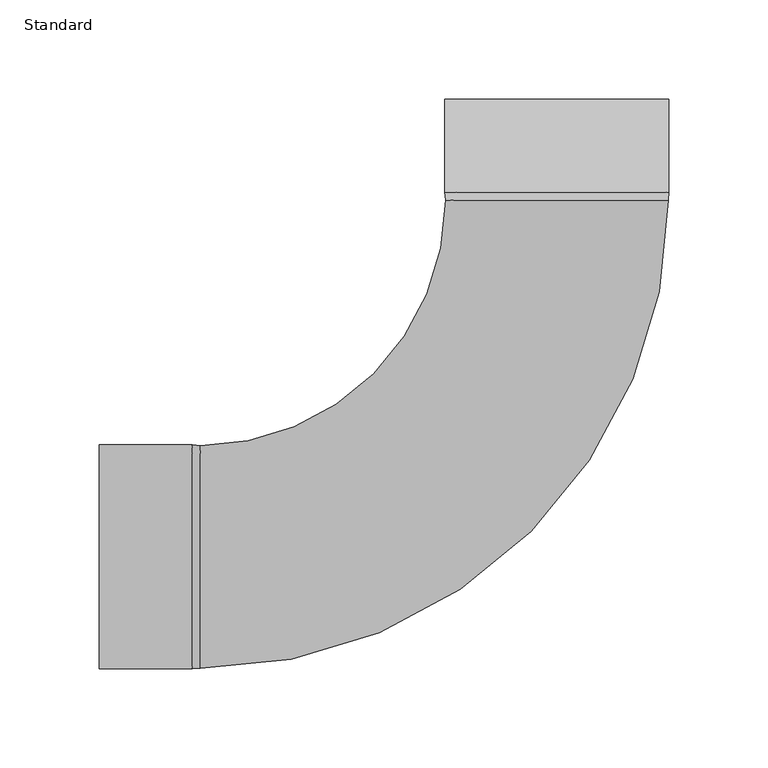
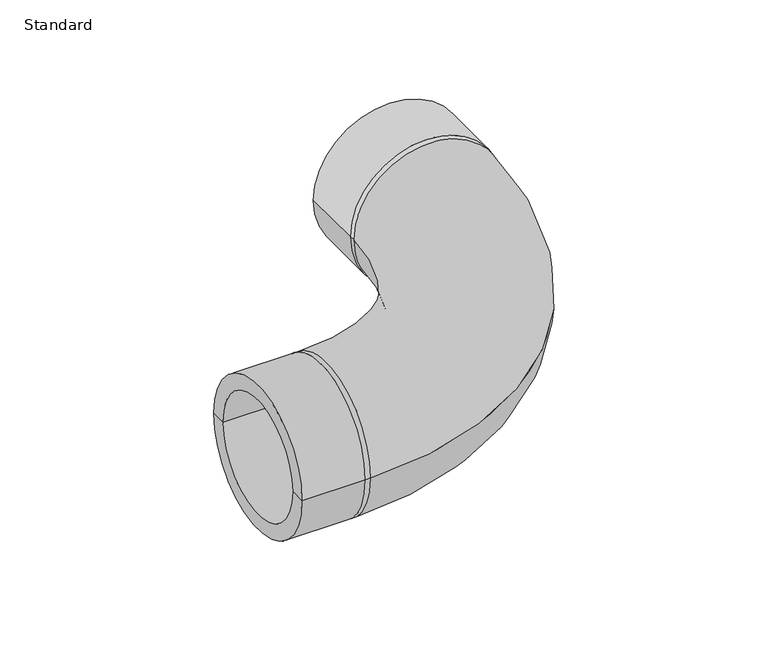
"""IFC4 building model written with IfcOpenShell, lengths in millimetres: pipe fitting geometry, Durapipe_PipeFitting_PVC_SR_Bend90deg : Standard."""

from ifc_helpers import new_model, si_unit, point, frame, origin, place, context, project, spatial, polyline, circle_curve, ellipse_curve, trimmed, source, transform, mapped, element, save
from ifc_brep_helpers import plane_surface, cylinder_surface, revolved_surface, advanced_brep


def standard_bcc041ec(model_context):
    return source(origin(), model_context, "Body", "AdvancedBrep", [
        advanced_brep(
        [(56.5, 184.0, 0.0), (-56.5, 184.0, 0.0), (-56.5, 231.0, 0.0), (56.5, 231.0, 0.0), (56.2, 180.0, 0.0), (-56.2, 180.0, 0.0), (-45.0, 231.0, 0.0), (45.0, 231.0, 0.0), (-180.0, 56.2, 0.0), (-180.0, -56.2, 0.0), (-231.0, -45.0, 0.0), (-231.0, 45.0, 0.0), (-231.0, 56.5, 0.0), (-231.0, -56.5, 0.0), (-184.0, -56.5, 0.0), (-184.0, 56.5, 0.0), (-184.0, -45.0, 0.0), (-184.0, 45.0, 0.0), (-184.0, 0.0, 0.0), (45.0, 184.0, 0.0), (-45.0, 184.0, 0.0), (0.0, 184.0, 0.0)],
        [
            (0, 1, circle_curve(frame((0.0, 184.0, 0.0), z_axis=(0.0, 1.0, 0.0), x_axis=(-1.0, 0.0, 0.0)), 56.5)),
            (1, 2),
            (2, 3, circle_curve(frame((0.0, 231.0, 0.0), z_axis=(0.0, -1.0, 0.0), x_axis=(-1.0, 0.0, 0.0)), 56.5)),
            (3, 0),
            (1, 0, circle_curve(frame((0.0, 184.0, 0.0), z_axis=(0.0, 1.0, 0.0), x_axis=(-1.0, 0.0, 0.0)), 56.5)),
            (3, 2, circle_curve(frame((0.0, 231.0, 0.0), z_axis=(0.0, -1.0, 0.0), x_axis=(-1.0, 0.0, 0.0)), 56.5)),
            (0, 4),
            (4, 5, circle_curve(frame((0.0, 180.0, 0.0), z_axis=(0.0, 1.0, 0.0), x_axis=(-1.0, 0.0, 0.0)), 56.2)),
            (5, 1),
            (5, 4, circle_curve(frame((0.0, 180.0, 0.0), z_axis=(0.0, 1.0, 0.0), x_axis=(-1.0, 0.0, 0.0)), 56.2)),
            (2, 6),
            (6, 7, circle_curve(frame((0.0, 231.0, 0.0), z_axis=(0.0, -1.0, 0.0), x_axis=(-1.0, 0.0, 0.0)), 45.0)),
            (7, 3),
            (7, 6, circle_curve(frame((0.0, 231.0, 0.0), z_axis=(0.0, -1.0, 0.0), x_axis=(-1.0, 0.0, 0.0)), 45.0)),
            (5, 8, circle_curve(frame((-180.0, 180.0, 0.0), z_axis=(0.0, 0.0, -1.0), x_axis=(0.0, -1.0, 0.0)), 123.8)),
            (8, 9, circle_curve(frame((-180.0, 0.0, 0.0), z_axis=(1.0, 0.0, 0.0), x_axis=(0.0, 1.0, 0.0)), 56.2)),
            (9, 4, circle_curve(frame((-180.0, 180.0, 0.0), z_axis=(0.0, 0.0, 1.0), x_axis=(0.0, -1.0, 0.0)), 236.2)),
            (9, 8, circle_curve(frame((-180.0, 0.0, 0.0), z_axis=(1.0, 0.0, 0.0), x_axis=(0.0, 1.0, 0.0)), 56.2)),
            (10, 11, circle_curve(frame((-231.0, 0.0, 0.0), z_axis=(1.0, 0.0, 0.0), x_axis=(0.0, 1.0, 0.0)), 45.0)),
            (11, 12),
            (12, 13, circle_curve(frame((-231.0, 0.0, 0.0), z_axis=(-1.0, 0.0, 0.0), x_axis=(0.0, 1.0, 0.0)), 56.5)),
            (13, 10),
            (11, 10, circle_curve(frame((-231.0, 0.0, 0.0), z_axis=(1.0, 0.0, 0.0), x_axis=(0.0, 1.0, 0.0)), 45.0)),
            (13, 12, circle_curve(frame((-231.0, 0.0, 0.0), z_axis=(-1.0, 0.0, 0.0), x_axis=(0.0, 1.0, 0.0)), 56.5)),
            (14, 15, circle_curve(frame((-184.0, 0.0, 0.0), z_axis=(1.0, 0.0, 0.0), x_axis=(0.0, 1.0, 0.0)), 56.5)),
            (15, 8),
            (9, 14),
            (15, 14, circle_curve(frame((-184.0, 0.0, 0.0), z_axis=(1.0, 0.0, 0.0), x_axis=(0.0, 1.0, 0.0)), 56.5)),
            (12, 15),
            (14, 13),
            (10, 16),
            (16, 17, circle_curve(frame((-184.0, 0.0, 0.0), z_axis=(1.0, 0.0, 0.0), x_axis=(0.0, 1.0, 0.0)), 45.0)),
            (17, 11),
            (17, 16, circle_curve(frame((-184.0, 0.0, 0.0), z_axis=(1.0, 0.0, 0.0), x_axis=(0.0, 1.0, 0.0)), 45.0)),
            (16, 18),
            (18, 17),
            (19, 20, circle_curve(frame((0.0, 184.0, 0.0), z_axis=(0.0, 1.0, 0.0), x_axis=(-1.0, 0.0, 0.0)), 45.0)),
            (20, 21),
            (21, 19),
            (20, 19, circle_curve(frame((0.0, 184.0, 0.0), z_axis=(0.0, 1.0, 0.0), x_axis=(-1.0, 0.0, 0.0)), 45.0)),
            (6, 20),
            (19, 7),
        ],
        [
            cylinder_surface(frame((0.0, 2174.0, 0.0), z_axis=(0.0, -1.0, 0.0), x_axis=(-1.0, 0.0, 0.0)), 56.5),
            revolved_surface(polyline([(-56.5, 184.0, 0.0), (-56.2, 180.0, 0.0)]), (0.0, 2174.0, 0.0), (0.0, -1.0, 0.0)),
            plane_surface(frame((0.0, 231.0, 0.0), z_axis=(0.0, 1.0, 0.0), x_axis=(-1.0, 0.0, 0.0))),
            revolved_surface(trimmed(ellipse_curve(frame((-180.0, 0.0, 0.0), z_axis=(-1.0, 0.0, 0.0), x_axis=(0.0, 1.0, 0.0)), 56.2, 56.2), [point((-180.0, -56.2, 0.0))], [point((-180.0, 56.2, 0.0))], True, "CARTESIAN"), (-180.0, 180.0, 0.0), (0.0, 0.0, 1.0)),
            revolved_surface(trimmed(ellipse_curve(frame((-180.0, 0.0, 0.0), z_axis=(-1.0, 0.0, 0.0), x_axis=(0.0, 1.0, 0.0)), 56.2, 56.2), [point((-180.0, 56.2, 0.0))], [point((-180.0, -56.2, 0.0))], True, "CARTESIAN"), (-180.0, 180.0, 0.0), (0.0, 0.0, 1.0)),
            plane_surface(frame((-231.0, 0.0, 0.0), z_axis=(-1.0, 0.0, 0.0), x_axis=(0.0, 1.0, 0.0))),
            revolved_surface(polyline([(-180.0, 56.2, 0.0), (-184.0, 56.5, 0.0)]), (2043.5, 0.0, 0.0), (-1.0, 0.0, 0.0)),
            cylinder_surface(frame((2043.5, 0.0, 0.0), z_axis=(-1.0, 0.0, 0.0), x_axis=(0.0, 1.0, 0.0)), 56.5),
            revolved_surface(polyline([(-231.0, 45.0, 0.0), (-184.0, 45.0, 0.0)]), (2043.5, 0.0, 0.0), (-1.0, 0.0, 0.0)),
            plane_surface(frame((-184.0, 0.0, 0.0), z_axis=(-1.0, 0.0, 0.0), x_axis=(0.0, 1.0, 0.0))),
            plane_surface(frame((0.0, 184.0, 0.0), z_axis=(0.0, 1.0, 0.0), x_axis=(-1.0, 0.0, 0.0))),
            revolved_surface(polyline([(-45.0, 184.0, 0.0), (-45.0, 231.0, 0.0)]), (0.0, 2174.0, 0.0), (0.0, -1.0, 0.0)),
        ],
        [
            (0, [[1, 2, 3, 4]]),
            (0, [[-2, 5, -4, 6]]),
            (1, [[-1, 7, 8, 9]]),
            (1, [[-5, -9, 10, -7]]),
            (2, [[-3, 11, 12, 13]]),
            (2, [[-6, -13, 14, -11]]),
            (3, [[15, 16, 17, -10]]),
            (4, [[-15, -8, -17, 18]]),
            (5, [[19, 20, 21, 22]]),
            (5, [[-20, 23, -22, 24]]),
            (6, [[25, 26, -18, 27]]),
            (6, [[-26, 28, -27, -16]]),
            (7, [[-21, 29, -25, 30]]),
            (7, [[-24, -30, -28, -29]]),
            (8, [[-19, 31, 32, 33]]),
            (8, [[-23, -33, 34, -31]]),
            (9, [[-32, 35, 36]]),
            (9, [[-34, -36, -35]]),
            (10, [[37, 38, 39]]),
            (10, [[-38, 40, -39]]),
            (11, [[-12, 41, -37, 42]]),
            (11, [[-14, -42, -40, -41]]),
        ],
    ),
    ])


if __name__ == "__main__":
    model = new_model("IFC4")
    model_context = context("Model", 3, world=origin())
    ifc_project = project(units=[si_unit("LENGTHUNIT", "METRE", prefix="MILLI")], contexts=[model_context])
    site = spatial("IfcSite", under=ifc_project)
    building = spatial("IfcBuilding", under=site)
    placement = place(None, origin())
    standard_shape = standard_bcc041ec(model_context)
    element("IfcPipeFitting", 1, ObjectType="Durapipe_PipeFitting_PVC_SR_Bend90deg : Standard", at=placement, inside=building, context=model_context, shape_type="MappedRepresentation", body=[
        mapped(standard_shape, transform((0.0, 0.0, 0.0), x_axis=(1.0, 0.0, 0.0), y_axis=(0.0, 1.0, 0.0), z_axis=(0.0, 0.0, 1.0))),
    ])
    save(model, "model.ifc")
